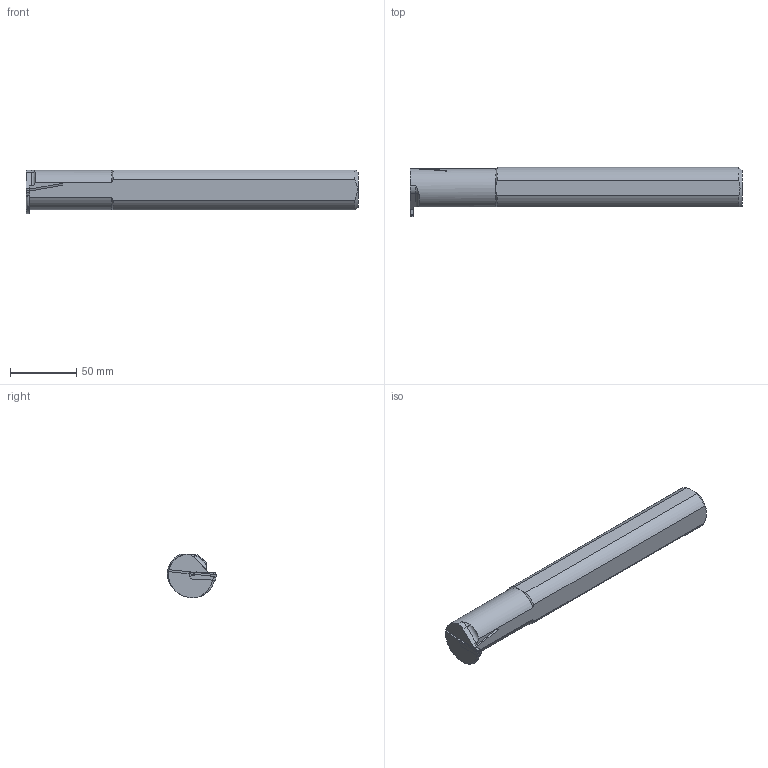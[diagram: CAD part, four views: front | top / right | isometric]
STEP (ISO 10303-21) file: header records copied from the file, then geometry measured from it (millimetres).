
FILE_DESCRIPTION(/* description */ (''),/* implementation_level */ '2;1');
FILE_NAME(/* name */ 'MGIVR3732-3-HAAS.stp',/* time_stamp */ '2021-10-18T09:11:50+09:00',/* author */ (''),/* organization */ (''),/* preprocessor_version */ 'ST-DEVELOPER v16',/* originating_system */ 'SIEMENS PLM Software NX 10.0',/* authorisation */ '');
FILE_SCHEMA (('AUTOMOTIVE_DESIGN { 1 0 10303 214 3 1 1 1 }'));
Length unit declared in the file: millimetre
Products named in the file (1): model2
Bounding box: 251.44 x 37.5 x 32.99 mm (x, y, z)
Volume: 187383.9 mm3; surface area: 28127.2 mm2
Topology: 2 solids, 2 shells, 61 faces, 162 edges, 101 vertices
Faces by surface type: plane 40, cylinder 8, cone 6, bspline 4, torus 3
Full cylindrical faces by diameter (mm): 2.5 x1
Entity records: 2285 total; most frequent: CARTESIAN_POINT 846, ORIENTED_EDGE 302, DIRECTION 271, EDGE_CURVE 151, VERTEX_POINT 99, LINE 91, VECTOR 91, AXIS2_PLACEMENT_3D 90
